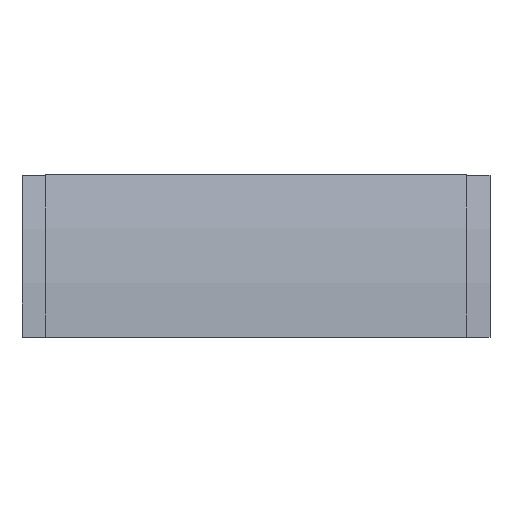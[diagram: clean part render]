
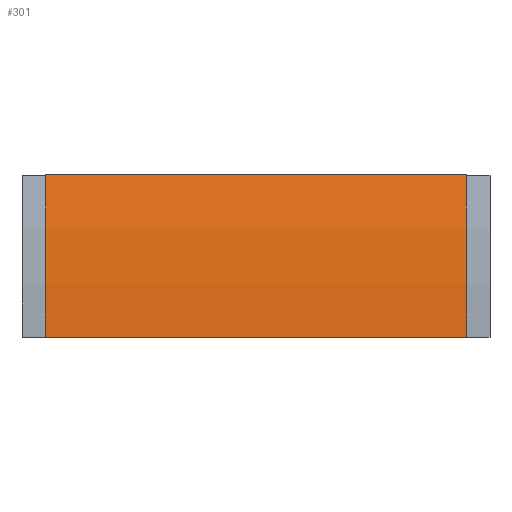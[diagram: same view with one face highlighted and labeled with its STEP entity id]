
A CAD part, front view. The second image highlights one B-rep face of the part: STEP entity #301.
In plain terms, the highlighted cylindrical face has radius 568 mm (diameter 1136 mm), a partial arc.
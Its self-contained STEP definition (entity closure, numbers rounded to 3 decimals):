
#24 = AXIS2_PLACEMENT_3D ( 'NONE', #246, #250, #249 ) ;
#84 = CIRCLE ( 'NONE', #345, 568. ) ;
#87 = CIRCLE ( 'NONE', #336, 568. ) ;
#101 = CARTESIAN_POINT ( 'NONE',  ( -190.5, -48.646, 147.009 ) ) ;
#103 = CARTESIAN_POINT ( 'NONE',  ( 190.5, -48.646, 147.009 ) ) ;
#128 = CARTESIAN_POINT ( 'NONE',  ( 190.5, -68., 0. ) ) ;
#129 = CARTESIAN_POINT ( 'NONE',  ( -190.5, -68., 0. ) ) ;
#246 = CARTESIAN_POINT ( 'NONE',  ( 0., 500., 0. ) ) ;
#249 = DIRECTION ( 'NONE',  ( 0., 0., -1. ) ) ;
#250 = DIRECTION ( 'NONE',  ( 1., 0., 0. ) ) ;
#301 = ADVANCED_FACE ( 'NONE', ( #352 ), #355, .T. ) ;
#336 = AXIS2_PLACEMENT_3D ( 'NONE', #789, #787, #785 ) ;
#345 = AXIS2_PLACEMENT_3D ( 'NONE', #715, #691, #790 ) ;
#352 = FACE_OUTER_BOUND ( 'NONE', #887, .T. ) ;
#355 = CYLINDRICAL_SURFACE ( 'NONE', #24, 568. ) ;
#462 = LINE ( 'NONE', #773, #469 ) ;
#465 = LINE ( 'NONE', #641, #467 ) ;
#467 = VECTOR ( 'NONE', #680, 1000. ) ;
#469 = VECTOR ( 'NONE', #726, 1000. ) ;
#579 = ORIENTED_EDGE ( 'NONE', *, *, #1003, .T. ) ;
#580 = ORIENTED_EDGE ( 'NONE', *, *, #1020, .T. ) ;
#581 = ORIENTED_EDGE ( 'NONE', *, *, #1004, .F. ) ;
#582 = ORIENTED_EDGE ( 'NONE', *, *, #1018, .F. ) ;
#641 = CARTESIAN_POINT ( 'NONE',  ( -190.5, -68., 0. ) ) ;
#680 = DIRECTION ( 'NONE',  ( 1., 0., 0. ) ) ;
#691 = DIRECTION ( 'NONE',  ( 1., 0., 0. ) ) ;
#715 = CARTESIAN_POINT ( 'NONE',  ( 190.5, 500., 0. ) ) ;
#726 = DIRECTION ( 'NONE',  ( 1., 0., 0. ) ) ;
#773 = CARTESIAN_POINT ( 'NONE',  ( -190.5, -48.646, 147.009 ) ) ;
#785 = DIRECTION ( 'NONE',  ( 0., 0., -1. ) ) ;
#787 = DIRECTION ( 'NONE',  ( 1., 0., 0. ) ) ;
#789 = CARTESIAN_POINT ( 'NONE',  ( -190.5, 500., 0. ) ) ;
#790 = DIRECTION ( 'NONE',  ( 0., 0., -1. ) ) ;
#814 = VERTEX_POINT ( 'NONE', #101 ) ;
#825 = VERTEX_POINT ( 'NONE', #129 ) ;
#826 = VERTEX_POINT ( 'NONE', #128 ) ;
#831 = VERTEX_POINT ( 'NONE', #103 ) ;
#887 = EDGE_LOOP ( 'NONE', ( #582, #581, #580, #579 ) ) ;
#1003 = EDGE_CURVE ( 'NONE', #825, #826, #465, .T. ) ;
#1004 = EDGE_CURVE ( 'NONE', #814, #831, #462, .T. ) ;
#1018 = EDGE_CURVE ( 'NONE', #831, #826, #84, .T. ) ;
#1020 = EDGE_CURVE ( 'NONE', #814, #825, #87, .T. ) ;
